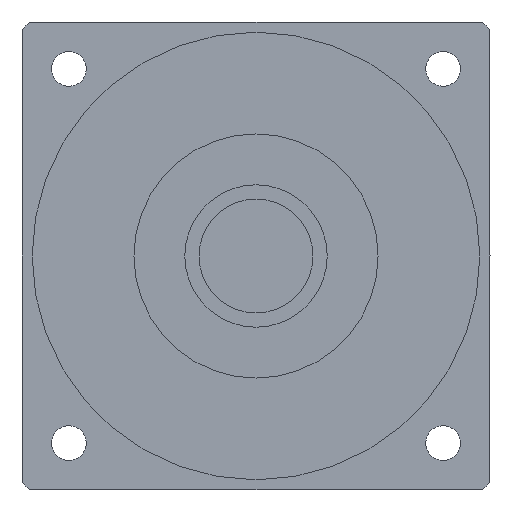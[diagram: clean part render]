
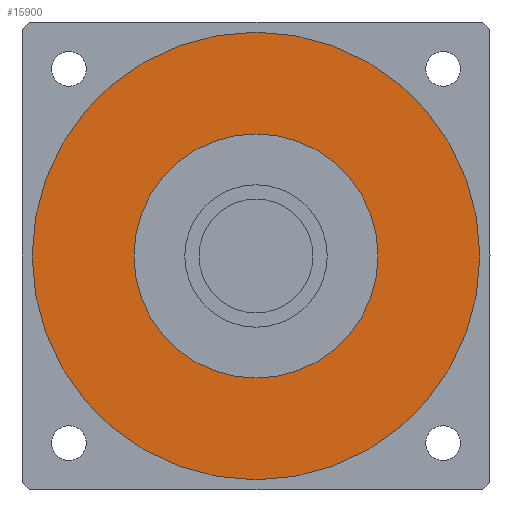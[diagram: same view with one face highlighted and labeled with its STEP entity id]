
A CAD part, left-side view. The second image highlights one B-rep face of the part: STEP entity #15900.
In plain terms, the highlighted planar face has unit normal (-1, 0, 0) as drawn and (0, 0, -1) by its records, which use the part's own axes.
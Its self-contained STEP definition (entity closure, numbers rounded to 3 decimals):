
#15320=CARTESIAN_POINT('',(55.,0.,-61.1));
#15330=VERTEX_POINT('',#15320);
#15420=CARTESIAN_POINT('',(-55.,0.,-61.1));
#15430=VERTEX_POINT('',#15420);
#15460=CARTESIAN_POINT('',(0.,0.,
-61.1));
#15470=DIRECTION('',(0.,0.,1.));
#15480=DIRECTION('',(0.,1.,0.));
#15490=AXIS2_PLACEMENT_3D('',#15460,#15470,#15480);
#15500=CIRCLE('',#15490,55.);
#15510=CARTESIAN_POINT('',(0.,55.,-61.1));
#15520=VERTEX_POINT('',#15510);
#15530=EDGE_CURVE('',#15520,#15430,#15500,.T.);
#15550=EDGE_CURVE('',#15330,#15520,#15500,.T.);
#15600=CARTESIAN_POINT('',(0.,0.,
-61.1));
#15610=DIRECTION('',(0.,0.,1.));
#15620=DIRECTION('',(-1.,0.,0.));
#15630=AXIS2_PLACEMENT_3D('',#15600,#15610,#15620);
#15640=PLANE('',#15630);
#15650=ORIENTED_EDGE('',*,*,#15530,.F.);
#15660=EDGE_CURVE('',#15430,#15330,#15500,.T.);
#15670=ORIENTED_EDGE('',*,*,#15660,.F.);
#15680=ORIENTED_EDGE('',*,*,#15550,.F.);
#15690=EDGE_LOOP('',(#15680,#15670,#15650));
#15700=FACE_OUTER_BOUND('',#15690,.T.);
#15710=CARTESIAN_POINT('',(0.,0.,
-61.1));
#15720=DIRECTION('',(0.,0.,1.));
#15730=DIRECTION('',(0.,1.,0.));
#15740=AXIS2_PLACEMENT_3D('',#15710,#15720,#15730);
#15750=CIRCLE('',#15740,30.);
#15760=CARTESIAN_POINT('',(-30.,0.,-61.1));
#15770=VERTEX_POINT('',#15760);
#15780=CARTESIAN_POINT('',(30.,0.,-61.1));
#15790=VERTEX_POINT('',#15780);
#15800=EDGE_CURVE('',#15770,#15790,#15750,.T.);
#15810=ORIENTED_EDGE('',*,*,#15800,.T.);
#15820=CARTESIAN_POINT('',(0.,30.,-61.1));
#15830=VERTEX_POINT('',#15820);
#15840=EDGE_CURVE('',#15830,#15770,#15750,.T.);
#15850=ORIENTED_EDGE('',*,*,#15840,.T.);
#15860=EDGE_CURVE('',#15790,#15830,#15750,.T.);
#15870=ORIENTED_EDGE('',*,*,#15860,.T.);
#15880=EDGE_LOOP('',(#15870,#15850,#15810));
#15890=FACE_BOUND('',#15880,.T.);
#15900=ADVANCED_FACE('',(#15700,#15890),#15640,.F.);
